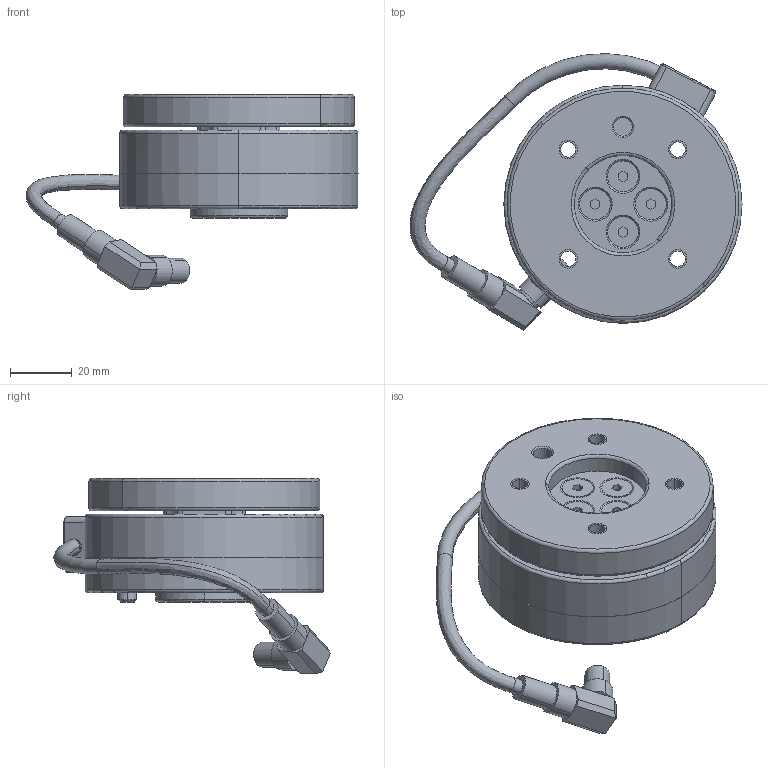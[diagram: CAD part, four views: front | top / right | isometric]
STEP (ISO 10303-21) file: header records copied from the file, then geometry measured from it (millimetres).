
FILE_DESCRIPTION((''),'2;1');
FILE_NAME('3635C1A-00_ASM_ASM','2020-11-09T17:25:38',('Administrator'),(''),'CREO PARAMETRIC BY PTC INC, 2016390','CREO PARAMETRIC BY PTC INC, 2016390','');
FILE_SCHEMA(('CONFIG_CONTROL_DESIGN'));
Length unit declared in the file: millimetre
Products named in the file (31): 3635C1A-15_187_1; 3635C1A-10_ASM_39_1_ASM; 3635C1A-21_61_1; M6X10_32_1; 3635C1A-22_ASM_32_1_ASM; 3635C1A-23_54_1; 5000202_22_1; 5000151_66_1; 3635C1A-FILLER1_10_1; 3635C1A-FILLER2_7_1; 3635C1A-25_62_1; 35545-40_13_1; 5000119_66_1; 5000406_16_1; 3635C2A-CIRCUIT_26_1; 3635C1A-CABLE_48_1; 3635C2A-35_21_1; 3635C2A-FILLER3_5_1; 3635C2A-FILLER4_3_1; 3635C2A-FILLER5_5_1; 3635C1A-O-RING_8_1; 5000635_66_1; 3635C1A-FILLER6_3_1; 3635C1A-LED_3MM_4_1; 3635C1A-01_ASM_152_1_ASM; 3635C2A-31_33; 5000385_32; 3635C2A-30_ASM_11_ASM; MFHCS_M5X14_22; 3635C1A-00_ASM_32_ASM; 3635C1A-00_ASM_ASM
Assembly tree (56 placements, depth 5):
  3635C1A-00_ASM_ASM
    3635C1A-00_ASM_32_ASM
      3635C1A-01_ASM_152_1_ASM
        3635C1A-10_ASM_39_1_ASM
          3635C1A-15_187_1
        3635C1A-22_ASM_32_1_ASM
          3635C1A-21_61_1
          M6X10_32_1
        3635C1A-23_54_1
        5000202_22_1  x4
        5000151_66_1  x4
        3635C1A-FILLER1_10_1
        3635C1A-FILLER2_7_1
        3635C1A-25_62_1
        35545-40_13_1
        5000119_66_1  x2
        5000406_16_1
        3635C2A-CIRCUIT_26_1
        3635C1A-CABLE_48_1
        3635C2A-35_21_1  x4
        3635C2A-FILLER3_5_1  x4
        3635C2A-FILLER4_3_1  x4
        3635C2A-FILLER5_5_1  x4
        3635C1A-O-RING_8_1
        5000635_66_1  x4
        3635C1A-FILLER6_3_1  x2
        3635C1A-LED_3MM_4_1
      3635C2A-30_ASM_11_ASM
        3635C2A-31_33
        5000385_32
      MFHCS_M5X14_22  x4
Bounding box: 107.36 x 89.45 x 63.08 mm (x, y, z)
Volume: 123072.9 mm3; surface area: 84358.1 mm2
Topology: 51 solids, 93 shells, 1228 faces, 3159 edges, 2098 vertices
Faces by surface type: cylinder 582, plane 424, cone 166, torus 50, sphere 4, bspline 2
Entity records: 30299 total; most frequent: CARTESIAN_POINT 6364, DIRECTION 5481, ORIENTED_EDGE 4496, EDGE_CURVE 2307, AXIS2_PLACEMENT_3D 2241, VERTEX_POINT 1564, CIRCLE 1215, EDGE_LOOP 1047
